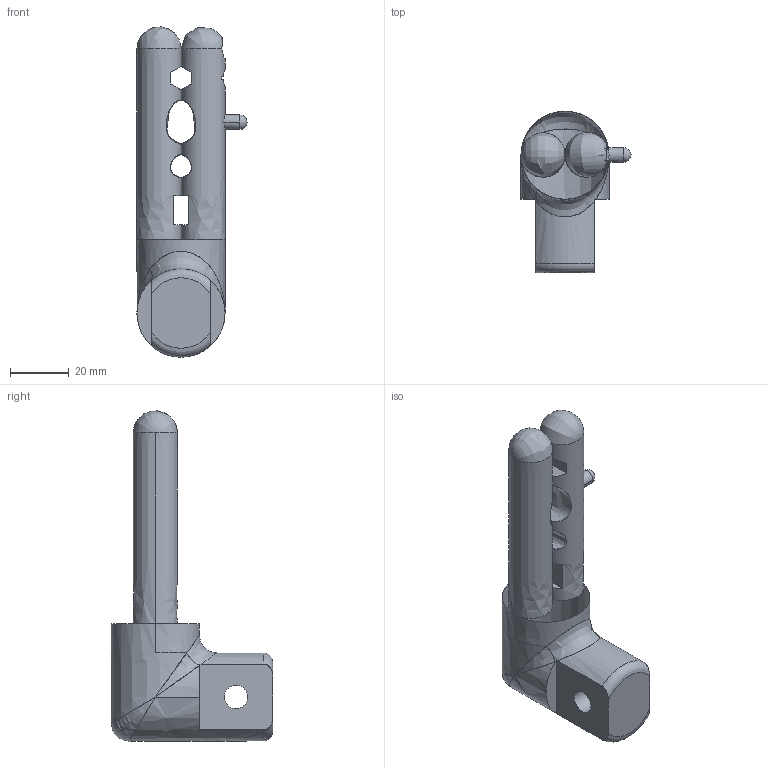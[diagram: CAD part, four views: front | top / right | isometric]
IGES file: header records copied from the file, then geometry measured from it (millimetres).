
Start section: START RECORD GO HERE.
Global section: file name: Arm_without_cup holder.igs; native system: DASSAULT SYSTEMES CATIA V5 R20 - www.3ds.com; preprocessor: CATIA Version 5 Release 20 ; author: user; organization: SHWETANK; date: 20170115.164659; units: millimetre
Bounding box: 37.5 x 55 x 112.42 mm (x, y, z)
Surface area: 14785.6 mm2 (no closed solid volume)
Topology: 0 solids, 0 shells, 91 faces, 519 edges, 512 vertices
Faces by surface type: plane 63, revolution 21, extrusion 4, bspline 3
